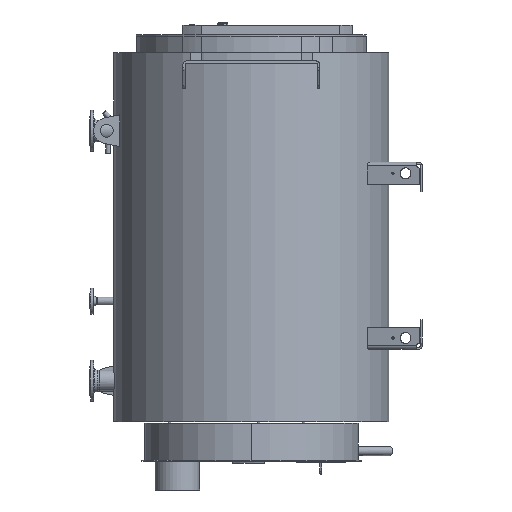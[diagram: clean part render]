
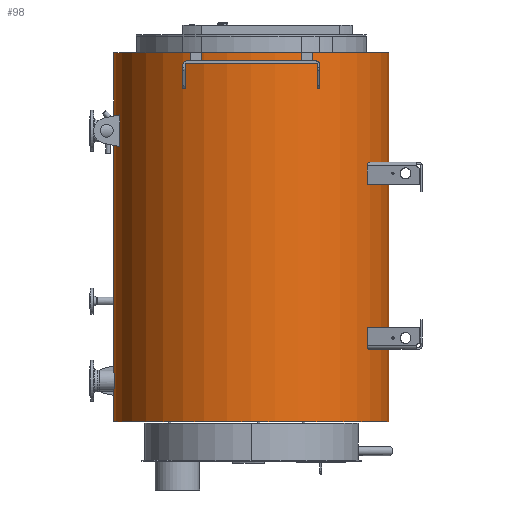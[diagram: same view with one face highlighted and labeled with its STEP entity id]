
A CAD part, left-side view. The second image highlights one B-rep face of the part: STEP entity #98.
In plain terms, the highlighted cylindrical face has radius 742.5 mm (diameter 1485 mm), a full revolution.
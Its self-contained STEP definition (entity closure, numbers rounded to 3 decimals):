
#52=CARTESIAN_POINT('',(742.5,0.,-1802.));
#53=VERTEX_POINT('',#52);
#54=CARTESIAN_POINT('',(-742.5,-0.,-1802.));
#55=VERTEX_POINT('',#54);
#56=CARTESIAN_POINT('',(0.,0.,-1802.));
#57=DIRECTION('',(-0.,-0.,1.));
#58=DIRECTION('',(-1.,0.,0.));
#59=AXIS2_PLACEMENT_3D('',#56,#57,#58);
#60=CIRCLE('',#59,742.5);
#61=EDGE_CURVE('',#53,#55,#60,.T.);
#63=CARTESIAN_POINT('',(0.,0.,-1802.));
#64=DIRECTION('',(-0.,-0.,1.));
#65=DIRECTION('',(-1.,0.,0.));
#66=AXIS2_PLACEMENT_3D('',#63,#64,#65);
#67=CIRCLE('',#66,742.5);
#68=EDGE_CURVE('',#55,#53,#67,.T.);
#73=CARTESIAN_POINT('',(0.,0.,-1802.002));
#74=DIRECTION('',(0.,0.,1.));
#75=DIRECTION('',(1.,0.,-0.));
#76=AXIS2_PLACEMENT_3D('',#73,#74,#75);
#77=CYLINDRICAL_SURFACE('',#76,742.5);
#78=CARTESIAN_POINT('',(742.5,-0.,190.));
#79=VERTEX_POINT('',#78);
#80=CARTESIAN_POINT('',(742.5,0.,190.));
#81=DIRECTION('',(-0.,-0.,-1.));
#82=VECTOR('',#81,1992.);
#83=LINE('',#80,#82);
#84=EDGE_CURVE('',#79,#53,#83,.T.);
#85=ORIENTED_EDGE('',*,*,#84,.T.);
#86=ORIENTED_EDGE('',*,*,#61,.T.);
#87=ORIENTED_EDGE('',*,*,#68,.T.);
#88=ORIENTED_EDGE('',*,*,#84,.F.);
#89=CARTESIAN_POINT('',(0.,0.,190.));
#90=DIRECTION('',(0.,0.,1.));
#91=DIRECTION('',(1.,0.,-0.));
#92=AXIS2_PLACEMENT_3D('',#89,#90,#91);
#93=CIRCLE('',#92,742.5);
#94=EDGE_CURVE('',#79,#79,#93,.T.);
#95=ORIENTED_EDGE('',*,*,#94,.F.);
#96=EDGE_LOOP('',(#85,#86,#87,#88,#95));
#97=FACE_BOUND('',#96,.T.);
#98=ADVANCED_FACE('',(#97),#77,.T.);
